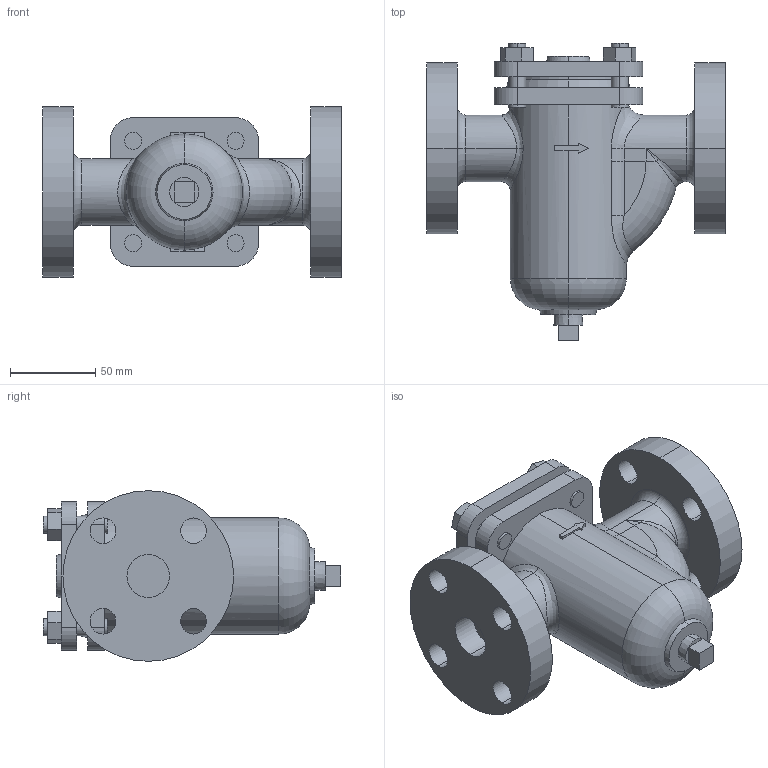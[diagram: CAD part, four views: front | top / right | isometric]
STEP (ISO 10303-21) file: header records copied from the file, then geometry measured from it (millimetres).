
FILE_DESCRIPTION (( 'STEP AP203' ), '1' );
FILE_NAME ('SU-20 20A.STEP', '2025-12-12T05:55:00', ( '' ), ( '' ), 'SwSTEP 2.0', 'SolidWorks 2024', '' );
FILE_SCHEMA (( 'CONFIG_CONTROL_DESIGN' ));
Length unit declared in the file: millimetre
Products named in the file (1): SU-20 20A
Bounding box: 175 x 174.2 x 100 mm (x, y, z)
Volume: 971915.2 mm3; surface area: 111630.6 mm2
Topology: 1 solids, 1 shells, 177 faces, 431 edges, 279 vertices
Faces by surface type: plane 83, cylinder 70, cone 8, bspline 7, torus 7, sphere 2
Entity records: 6816 total; most frequent: CARTESIAN_POINT 2445, DIRECTION 926, ORIENTED_EDGE 858, EDGE_CURVE 429, AXIS2_PLACEMENT_3D 348, VERTEX_POINT 279, LINE 230, VECTOR 230
